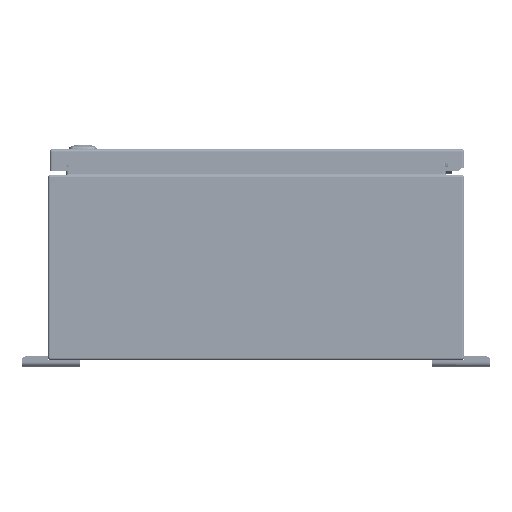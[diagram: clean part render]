
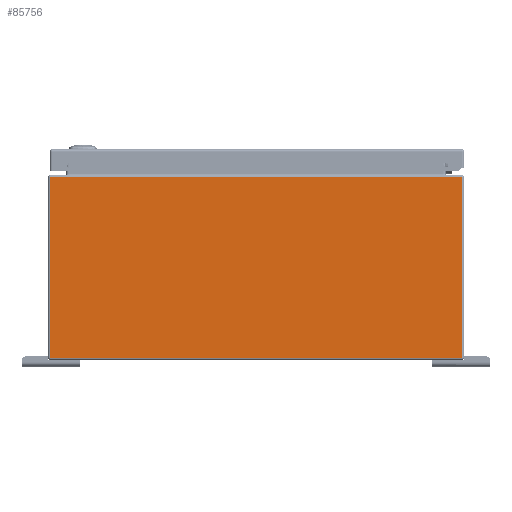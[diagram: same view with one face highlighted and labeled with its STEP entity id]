
A CAD part, left-side view. The second image highlights one B-rep face of the part: STEP entity #85756.
In plain terms, the highlighted planar face has unit normal (-1, 0, 0).
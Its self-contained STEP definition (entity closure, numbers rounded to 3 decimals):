
#5471=PLANE('',#91915);
#7551=LINE('',#119691,#13962);
#7552=LINE('',#119695,#13963);
#7553=LINE('',#119697,#13964);
#7554=LINE('',#119699,#13965);
#7555=LINE('',#119701,#13966);
#7556=LINE('',#119702,#13967);
#13962=VECTOR('',#99115,0.394);
#13963=VECTOR('',#99120,0.394);
#13964=VECTOR('',#99121,0.394);
#13965=VECTOR('',#99122,0.394);
#13966=VECTOR('',#99123,0.394);
#13967=VECTOR('',#99124,0.394);
#21656=FACE_OUTER_BOUND('',#26800,.T.);
#26800=EDGE_LOOP('',(#57619,#57620,#57621,#57622,#57623,#57624));
#35371=VERTEX_POINT('',#119673);
#35378=VERTEX_POINT('',#119690);
#35379=VERTEX_POINT('',#119694);
#35380=VERTEX_POINT('',#119696);
#35381=VERTEX_POINT('',#119698);
#35382=VERTEX_POINT('',#119700);
#44052=EDGE_CURVE('',#35371,#35378,#7551,.T.);
#44054=EDGE_CURVE('',#35379,#35371,#7552,.T.);
#44055=EDGE_CURVE('',#35379,#35380,#7553,.T.);
#44056=EDGE_CURVE('',#35381,#35380,#7554,.T.);
#44057=EDGE_CURVE('',#35382,#35381,#7555,.T.);
#44058=EDGE_CURVE('',#35382,#35378,#7556,.T.);
#57619=ORIENTED_EDGE('',*,*,#44054,.F.);
#57620=ORIENTED_EDGE('',*,*,#44055,.T.);
#57621=ORIENTED_EDGE('',*,*,#44056,.F.);
#57622=ORIENTED_EDGE('',*,*,#44057,.F.);
#57623=ORIENTED_EDGE('',*,*,#44058,.T.);
#57624=ORIENTED_EDGE('',*,*,#44052,.F.);
#85756=ADVANCED_FACE('',(#21656),#5471,.F.);
#91915=AXIS2_PLACEMENT_3D('',#119693,#99118,#99119);
#99115=DIRECTION('',(0.,0.,-1.));
#99118=DIRECTION('center_axis',(1.,0.,0.));
#99119=DIRECTION('ref_axis',(0.,0.,-1.));
#99120=DIRECTION('',(0.,-1.,0.));
#99121=DIRECTION('',(0.,1.,0.));
#99122=DIRECTION('',(0.,-1.,0.));
#99123=DIRECTION('',(0.,0.,1.));
#99124=DIRECTION('',(0.,-1.,0.));
#119673=CARTESIAN_POINT('',(-24.,-8.901,7.901));
#119690=CARTESIAN_POINT('',(-24.,-8.901,0.099));
#119691=CARTESIAN_POINT('',(-24.,-8.901,4.));
#119693=CARTESIAN_POINT('Origin',(-24.,0.,4.));
#119694=CARTESIAN_POINT('',(-24.,-8.126,7.901));
#119695=CARTESIAN_POINT('',(-24.,-4.475,7.901));
#119696=CARTESIAN_POINT('',(-24.,8.126,7.901));
#119697=CARTESIAN_POINT('',(-24.,4.455,7.901));
#119698=CARTESIAN_POINT('',(-24.,8.901,7.901));
#119699=CARTESIAN_POINT('',(-24.,-4.475,7.901));
#119700=CARTESIAN_POINT('',(-24.,8.901,0.099));
#119701=CARTESIAN_POINT('',(-24.,8.901,4.));
#119702=CARTESIAN_POINT('',(-24.,4.5,0.099));
